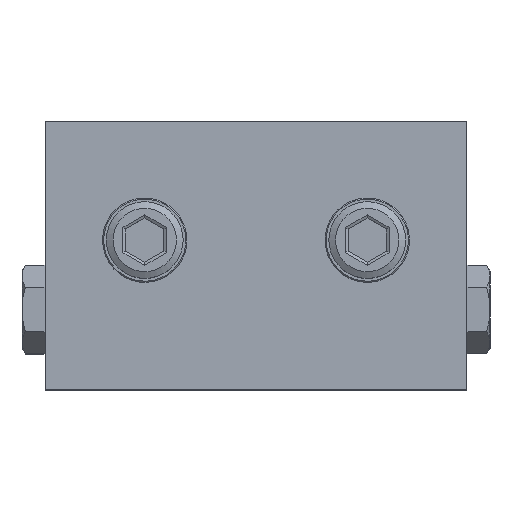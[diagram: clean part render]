
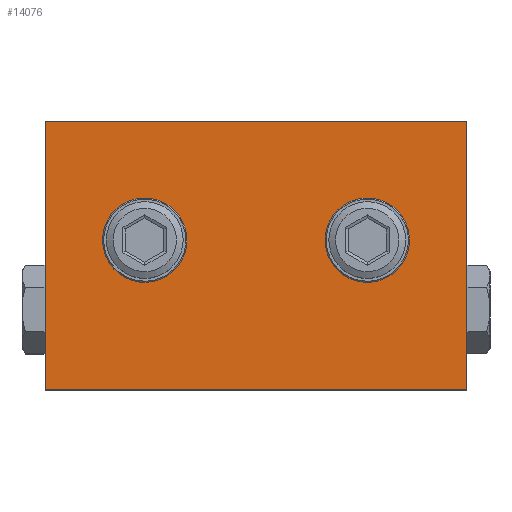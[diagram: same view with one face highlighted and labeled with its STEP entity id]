
A CAD part, top view. The second image highlights one B-rep face of the part: STEP entity #14076.
In plain terms, the highlighted planar face has unit normal (0, 0, 1) as drawn and (0, 0, -1) by its records, which use the part's own axes.
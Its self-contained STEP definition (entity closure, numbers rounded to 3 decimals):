
#48 = CARTESIAN_POINT ( 'NONE',  ( 11.4, -15.5, -4.85 ) ) ;
#1255 = EDGE_CURVE ( 'NONE', #14757, #3006, #6613, .T. ) ;
#1555 = LINE ( 'NONE', #26835, #10353 ) ;
#2306 = EDGE_CURVE ( 'NONE', #3006, #24556, #23472, .T. ) ;
#2818 = VERTEX_POINT ( 'NONE', #29267 ) ;
#2883 = DIRECTION ( 'NONE',  ( 0., 0., 1. ) ) ;
#3006 = VERTEX_POINT ( 'NONE', #21095 ) ;
#3009 = CARTESIAN_POINT ( 'NONE',  ( 0., -35., -4.85 ) ) ;
#3746 = EDGE_CURVE ( 'NONE', #25645, #25645, #25134, .T. ) ;
#3839 = AXIS2_PLACEMENT_3D ( 'NONE', #14276, #9892, #23532 ) ;
#4091 = ORIENTED_EDGE ( 'NONE', *, *, #14037, .F. ) ;
#4902 = CARTESIAN_POINT ( 'NONE',  ( -11.4, -15.5, -4.85 ) ) ;
#5261 = VECTOR ( 'NONE', #16791, 1000. ) ;
#5282 = ORIENTED_EDGE ( 'NONE', *, *, #1255, .F. ) ;
#6613 = LINE ( 'NONE', #20537, #16352 ) ;
#7732 = ORIENTED_EDGE ( 'NONE', *, *, #2306, .F. ) ;
#8145 = CARTESIAN_POINT ( 'NONE',  ( -27.5, 0., -4.85 ) ) ;
#8359 = AXIS2_PLACEMENT_3D ( 'NONE', #15805, #2883, #28143 ) ;
#8396 = EDGE_CURVE ( 'NONE', #24556, #2818, #1555, .T. ) ;
#9892 = DIRECTION ( 'NONE',  ( 0., 0., -1. ) ) ;
#10353 = VECTOR ( 'NONE', #12906, 1000. ) ;
#11067 = CARTESIAN_POINT ( 'NONE',  ( 0., 0., -4.85 ) ) ;
#11104 = FACE_BOUND ( 'NONE', #23798, .T. ) ;
#11546 = ORIENTED_EDGE ( 'NONE', *, *, #8396, .F. ) ;
#11809 = DIRECTION ( 'NONE',  ( 0., 0., -1. ) ) ;
#11958 = FACE_OUTER_BOUND ( 'NONE', #27362, .T. ) ;
#11983 = VERTEX_POINT ( 'NONE', #48 ) ;
#12906 = DIRECTION ( 'NONE',  ( 0., 1., 0. ) ) ;
#13342 = EDGE_CURVE ( 'NONE', #2818, #14757, #17596, .T. ) ;
#14037 = EDGE_CURVE ( 'NONE', #11983, #11983, #28149, .T. ) ;
#14076 = ADVANCED_FACE ( 'NONE', ( #11958, #21213, #11104 ), #29577, .F. ) ;
#14276 = CARTESIAN_POINT ( 'NONE',  ( -14.5, -15.5, -4.85 ) ) ;
#14757 = VERTEX_POINT ( 'NONE', #8145 ) ;
#15805 = CARTESIAN_POINT ( 'NONE',  ( 0., 0., -4.85 ) ) ;
#16034 = ORIENTED_EDGE ( 'NONE', *, *, #13342, .F. ) ;
#16352 = VECTOR ( 'NONE', #29757, 1000. ) ;
#16791 = DIRECTION ( 'NONE',  ( 1., 0., 0. ) ) ;
#17596 = LINE ( 'NONE', #11067, #22436 ) ;
#20292 = CARTESIAN_POINT ( 'NONE',  ( 27.5, -35., -4.85 ) ) ;
#20537 = CARTESIAN_POINT ( 'NONE',  ( -27.5, 0., -4.85 ) ) ;
#20908 = DIRECTION ( 'NONE',  ( -1., 0., 0. ) ) ;
#21071 = CARTESIAN_POINT ( 'NONE',  ( 14.5, -15.5, -4.85 ) ) ;
#21095 = CARTESIAN_POINT ( 'NONE',  ( -27.5, -35., -4.85 ) ) ;
#21213 = FACE_BOUND ( 'NONE', #25021, .T. ) ;
#22436 = VECTOR ( 'NONE', #22742, 1000. ) ;
#22742 = DIRECTION ( 'NONE',  ( -1., 0., 0. ) ) ;
#22860 = AXIS2_PLACEMENT_3D ( 'NONE', #21071, #11809, #20908 ) ;
#23472 = LINE ( 'NONE', #3009, #5261 ) ;
#23532 = DIRECTION ( 'NONE',  ( 1., 0., 0. ) ) ;
#23798 = EDGE_LOOP ( 'NONE', ( #27152 ) ) ;
#24556 = VERTEX_POINT ( 'NONE', #20292 ) ;
#25021 = EDGE_LOOP ( 'NONE', ( #4091 ) ) ;
#25134 = CIRCLE ( 'NONE', #3839, 3.1 ) ;
#25645 = VERTEX_POINT ( 'NONE', #4902 ) ;
#26835 = CARTESIAN_POINT ( 'NONE',  ( 27.5, 0., -4.85 ) ) ;
#27152 = ORIENTED_EDGE ( 'NONE', *, *, #3746, .F. ) ;
#27362 = EDGE_LOOP ( 'NONE', ( #5282, #16034, #11546, #7732 ) ) ;
#28143 = DIRECTION ( 'NONE',  ( 1., 0., 0. ) ) ;
#28149 = CIRCLE ( 'NONE', #22860, 3.1 ) ;
#29267 = CARTESIAN_POINT ( 'NONE',  ( 27.5, 0., -4.85 ) ) ;
#29577 = PLANE ( 'NONE',  #8359 ) ;
#29757 = DIRECTION ( 'NONE',  ( 0., -1., 0. ) ) ;
